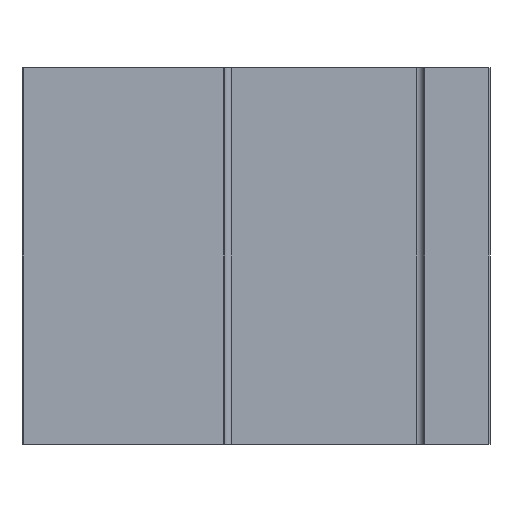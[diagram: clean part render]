
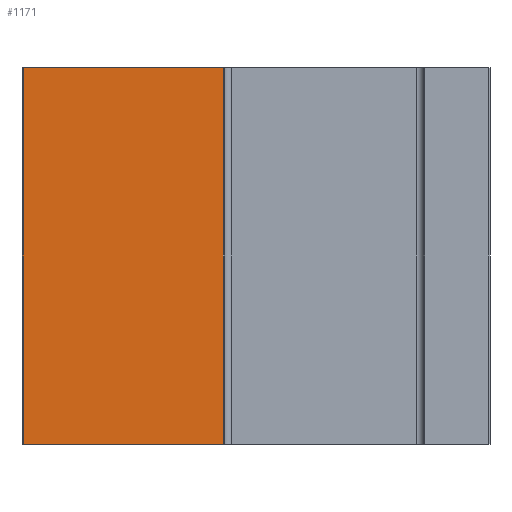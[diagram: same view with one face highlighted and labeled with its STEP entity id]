
A CAD part, front view. The second image highlights one B-rep face of the part: STEP entity #1171.
In plain terms, the highlighted planar face has unit normal (0, -1, 0).
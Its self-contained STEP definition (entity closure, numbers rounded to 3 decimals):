
#595 = VERTEX_POINT( '', #1702 );
#639 = VERTEX_POINT( '', #1752 );
#865 = VERTEX_POINT( '', #2013 );
#869 = EDGE_CURVE( '', #595, #1437, #2017, .T. );
#1039 = EDGE_CURVE( '', #1437, #865, #2208, .T. );
#1123 = EDGE_CURVE( '', #595, #639, #2300, .T. );
#1171 = ADVANCED_FACE( '', ( #2350 ), #2351, .T. );
#1437 = VERTEX_POINT( '', #2653 );
#1493 = EDGE_CURVE( '', #639, #865, #2715, .T. );
#1702 = CARTESIAN_POINT( '', ( -27.2, -4., 0. ) );
#1752 = CARTESIAN_POINT( '', ( -27.2, -4., -34. ) );
#2013 = CARTESIAN_POINT( '', ( -9.1, -4., -34. ) );
#2017 = LINE( '', #3368, #3369 );
#2208 = LINE( '', #3628, #3629 );
#2300 = LINE( '', #3756, #3757 );
#2350 = FACE_OUTER_BOUND( '', #3828, .T. );
#2351 = PLANE( '', #3829 );
#2653 = CARTESIAN_POINT( '', ( -9.1, -4., 0. ) );
#2715 = LINE( '', #4316, #4317 );
#3368 = CARTESIAN_POINT( '', ( -27.2, -4., 0. ) );
#3369 = VECTOR( '', #5009, 1. );
#3628 = CARTESIAN_POINT( '', ( -9.1, -4., 0. ) );
#3629 = VECTOR( '', #5221, 1. );
#3756 = CARTESIAN_POINT( '', ( -27.2, -4., 0. ) );
#3757 = VECTOR( '', #5317, 1. );
#3828 = EDGE_LOOP( '', ( #5358, #5359, #5360, #5361 ) );
#3829 = AXIS2_PLACEMENT_3D( '', #5362, #5363, #5364 );
#4316 = CARTESIAN_POINT( '', ( -27.2, -4., -34. ) );
#4317 = VECTOR( '', #5787, 1. );
#5009 = DIRECTION( '', ( 1., 0., 0. ) );
#5221 = DIRECTION( '', ( 0., 0., -1. ) );
#5317 = DIRECTION( '', ( 0., 0., -1. ) );
#5358 = ORIENTED_EDGE( '', *, *, #1493, .T. );
#5359 = ORIENTED_EDGE( '', *, *, #1039, .F. );
#5360 = ORIENTED_EDGE( '', *, *, #869, .F. );
#5361 = ORIENTED_EDGE( '', *, *, #1123, .T. );
#5362 = CARTESIAN_POINT( '', ( -27.2, -4., 0. ) );
#5363 = DIRECTION( '', ( 0., -1., 0. ) );
#5364 = DIRECTION( '', ( -1., 0., 0. ) );
#5787 = DIRECTION( '', ( 1., 0., 0. ) );
